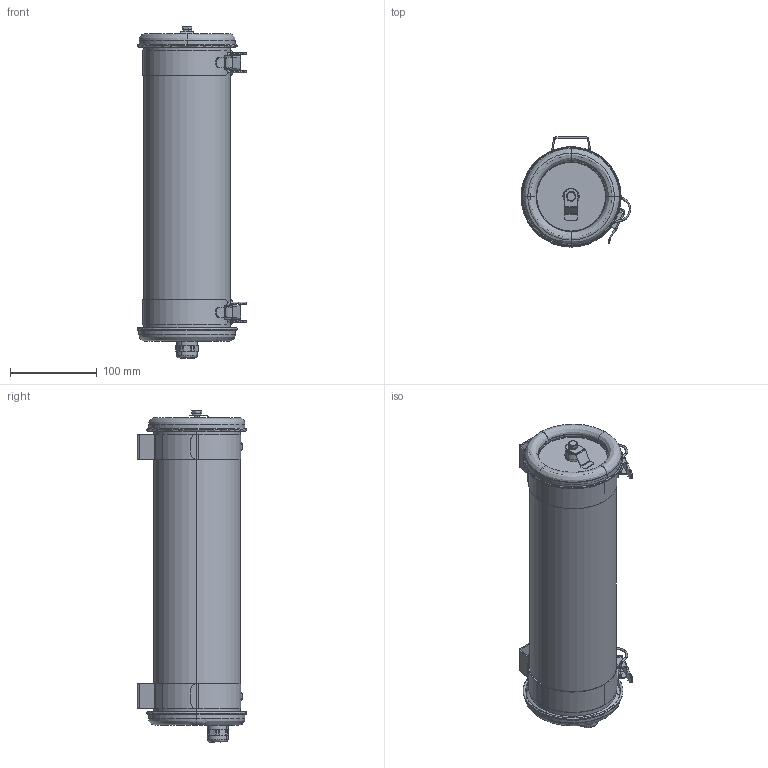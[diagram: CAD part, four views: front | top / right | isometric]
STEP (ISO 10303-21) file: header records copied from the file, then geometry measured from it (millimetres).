
FILE_DESCRIPTION (( 'STEP AP214' ), '1' );
FILE_NAME ('Gude.STEP', '2018-04-09T14:57:51', ( '' ), ( '' ), 'SwSTEP 2.0', 'SolidWorks 2015', '' );
FILE_SCHEMA (( 'AUTOMOTIVE_DESIGN' ));
Length unit declared in the file: millimetre
Products named in the file (24): Gude; 6282-FLAS MONO_2; 42143-FLAS100 120 KELV SOU P1316; 10247-CORP PO 100-95-350 CL_S10247-corps_po_100_350; 10861-COLL POLYURETHANE EINS 100; 6282-FLAS MONO; 6285-PATT TERRE EINS; 41682-FLAS100 SPE COUL COM SABL V3; 42864-CORP COLL PO KELV100-350; 10910-JOIN MONO PO EPDM; 6344-1ERE PART COLL MONO RENF; 6268-2EME PART COLL MONO PO; 6424-2EME PART SAUTERELLE; 6423-1ERE PART SAUTERELLE; 11146-RESS DE SAUTERELLE_､100; 4335-SAUTERELLE COMPLETE SAMMODE_､100; 6346-RENF COLL MONO; 2334-SUSP SOUD MONO RENF; 41380-PE 13 LAIT NICK BLUE GLOBE M20; 11908-JOIN PLAT M20 SIB 24-18-1,2_ISO20; 10943-JOIN 18-6-10 EINS; 6287-COUP ETANCHEITE CONIQUE; 11221-RONDELLE 6 W INOX A2_rondelle_elastique_w_M6; 11197-VIS M 6x35,18 H INOX A2_vis HM  6 X  35
Assembly tree (24 placements, depth 4):
  Gude
    42143-FLAS100 120 KELV SOU P1316
      6282-FLAS MONO_2
    42864-CORP COLL PO KELV100-350
      10247-CORP PO 100-95-350 CL_S10247-corps_po_100_350
      10861-COLL POLYURETHANE EINS 100
      41682-FLAS100 SPE COUL COM SABL V3
        6282-FLAS MONO
        6285-PATT TERRE EINS
    10910-JOIN MONO PO EPDM
    2334-SUSP SOUD MONO RENF  x2
      6344-1ERE PART COLL MONO RENF
      6268-2EME PART COLL MONO PO
      4335-SAUTERELLE COMPLETE SAMMODE_､100
        6424-2EME PART SAUTERELLE
        6423-1ERE PART SAUTERELLE
        11146-RESS DE SAUTERELLE_､100
      6346-RENF COLL MONO
    41380-PE 13 LAIT NICK BLUE GLOBE M20
    11908-JOIN PLAT M20 SIB 24-18-1,2_ISO20
    10943-JOIN 18-6-10 EINS
    6287-COUP ETANCHEITE CONIQUE
    11221-RONDELLE 6 W INOX A2_rondelle_elastique_w_M6
    11197-VIS M 6x35,18 H INOX A2_vis HM  6 X  35
Bounding box: 126.86 x 126.7 x 383.1 mm (x, y, z)
Volume: 392914 mm3; surface area: 390227.9 mm2
Topology: 24 solids, 24 shells, 631 faces, 1606 edges, 1027 vertices
Faces by surface type: cylinder 274, plane 242, bspline 80, cone 35
Entity records: 17022 total; most frequent: CARTESIAN_POINT 5205, DIRECTION 2336, ORIENTED_EDGE 2306, EDGE_CURVE 1153, AXIS2_PLACEMENT_3D 913, VERTEX_POINT 733, VECTOR 510, LINE 510
